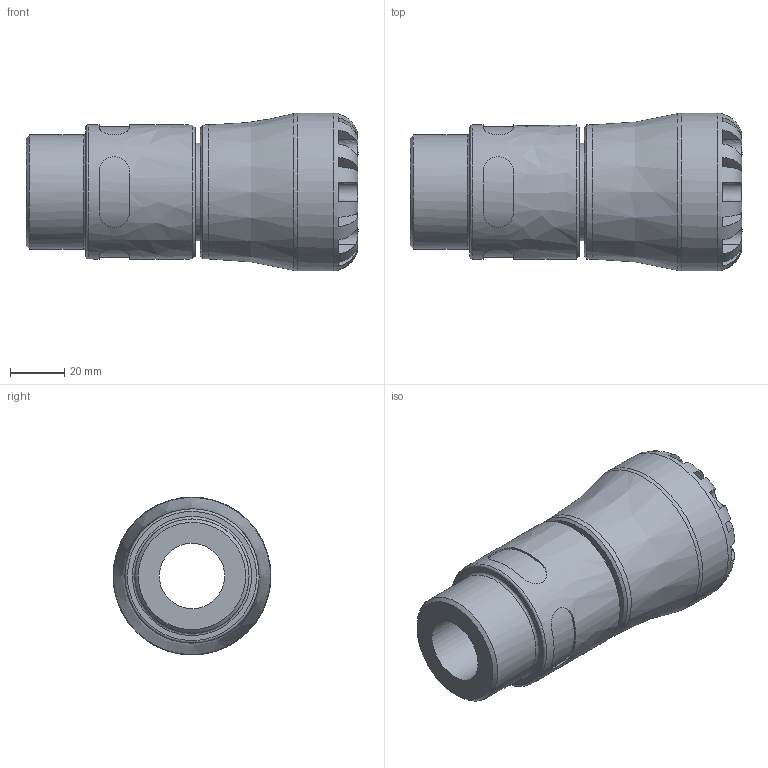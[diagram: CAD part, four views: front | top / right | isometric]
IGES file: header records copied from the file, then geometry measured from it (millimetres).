
Global section: file name: 10N200032013_10N2G0032013; native system: Autodesk Inventor 2019; preprocessor: unknown; author: KIM; date: 20240312.131928; units: millimetre
Bounding box: 122 x 58 x 58 mm (x, y, z)
Volume: 162335.2 mm3; surface area: 35832.6 mm2
Topology: 1 solids, 1 shells, 106 faces, 279 edges, 182 vertices
Faces by surface type: bspline 106
